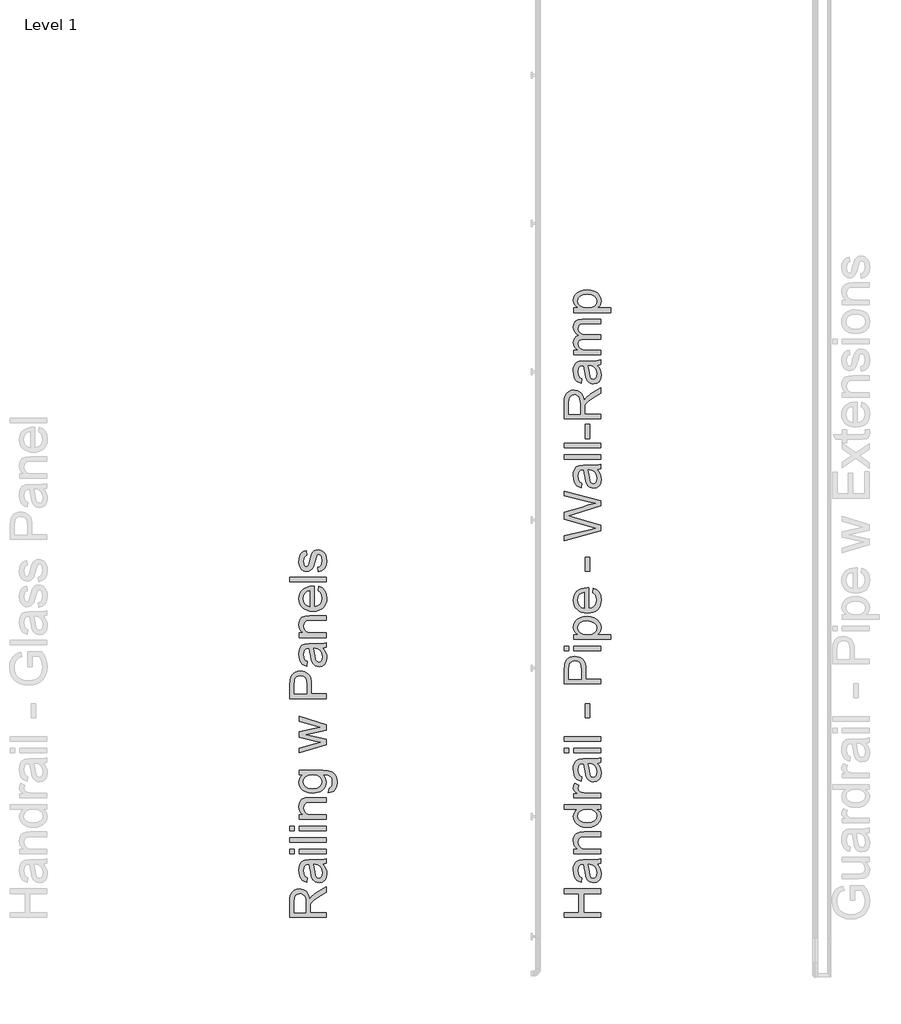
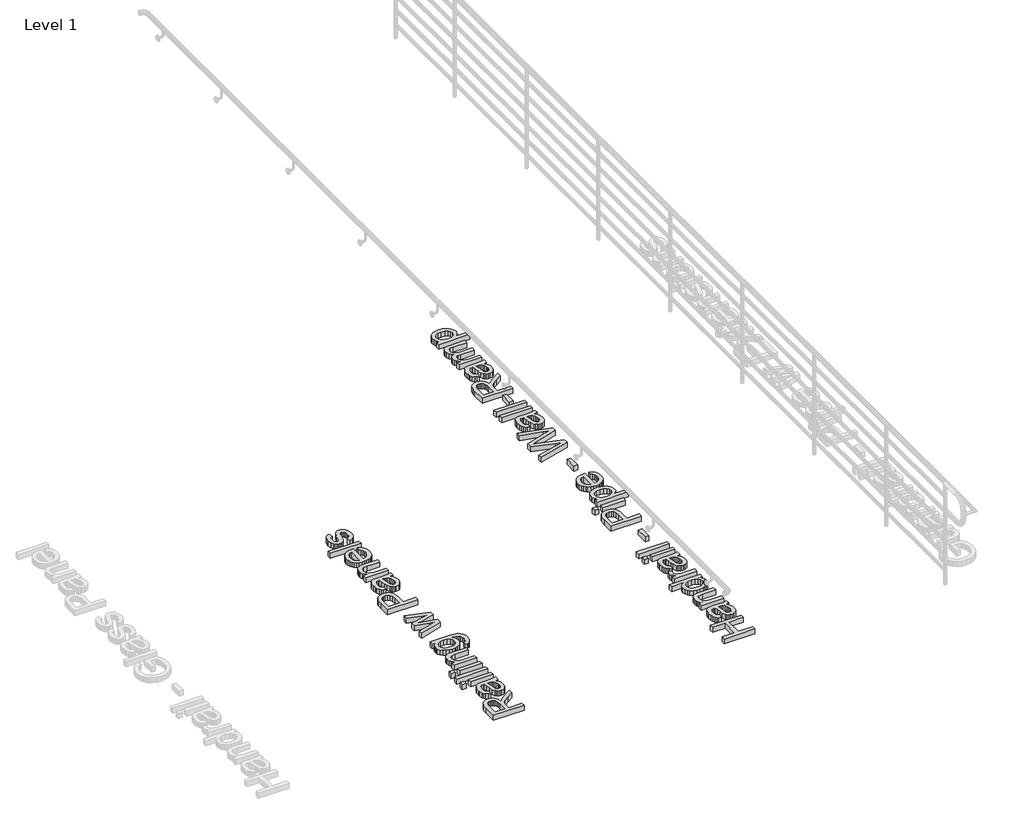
# One storey, part 9 of 14: 2 proxies.
"""IFC4 building model written with IfcOpenShell, lengths in millimetres."""

import ifcopenshell
import ifcopenshell.guid

model = None  # the IFC model being written
_history = None  # IfcOwnerHistory: only IFC2X3 demands one
_inside = {}  # id of a spatial element -> (the spatial element, [elements in it])
_under = {}  # id of a project, library or spatial element -> (it, [spatial elements below it])
_declared = {}  # id of a project -> (the project, [libraries it declares])
_typed = {}  # id of a type object -> (the type object, [elements of that type])
_made_of = {}  # id of a material, layer set ... -> (it, [elements and type objects made of it])


def new_model(schema):
    """Start an empty IFC model of exactly this schema.

    Asked for "IFC4X3", IfcOpenShell would pick the latest addendum, in which some entities
    have other attributes; the version numbers below select the first issue.
    IFC2X3 requires an IfcOwnerHistory on every rooted entity: one is made here for all.
    """
    global model, _history
    if schema == "IFC4X3":
        model = ifcopenshell.file(schema_version=(4, 3, 0, 0))
    else:
        model = ifcopenshell.file(schema=schema)
    _inside.clear()
    _under.clear()
    _declared.clear()
    _typed.clear()
    _made_of.clear()
    _history = None
    if model.schema == "IFC2X3":
        org = make("IfcOrganization", Name="unknown")
        user = make(
            "IfcPersonAndOrganization",
            ThePerson=make("IfcPerson", FamilyName="unknown"),
            TheOrganization=org,
        )
        app = make(
            "IfcApplication",
            ApplicationDeveloper=org,
            Version="unknown",
            ApplicationFullName="unknown",
            ApplicationIdentifier="unknown",
        )
        _history = make(
            "IfcOwnerHistory",
            OwningUser=user,
            OwningApplication=app,
            ChangeAction="ADDED",
            CreationDate=0,
        )
    return model


def make(cls, **values):
    """One entity of the class cls with the attributes given. An attribute that is None is left unset."""
    return model.create_entity(
        cls, **{name: value for name, value in values.items() if value is not None}
    )


def rooted(cls, **values):
    """An entity with a GlobalId (a new one), such as an element, a storey or a relation."""
    return make(cls, GlobalId=ifcopenshell.guid.new(), OwnerHistory=_history, **values)


def si_unit(unit_type, name, prefix=None):
    """IfcSIUnit, for example si_unit("LENGTHUNIT", "METRE", prefix="MILLI")."""
    return make("IfcSIUnit", UnitType=unit_type, Prefix=prefix, Name=name)


def assignment(units):
    """IfcUnitAssignment: the units of a project."""
    return None if units is None else make("IfcUnitAssignment", Units=units)


def point(xyz):
    """IfcCartesianPoint."""
    return None if xyz is None else make("IfcCartesianPoint", Coordinates=xyz)


def direction(xyz):
    """IfcDirection."""
    return None if xyz is None else make("IfcDirection", DirectionRatios=xyz)


def frame(location, z_axis=None, x_axis=None):
    """IfcAxis2Placement3D, a coordinate frame: its origin and axes. An axis left out is left unset."""
    return make(
        "IfcAxis2Placement3D",
        Location=point(location),
        Axis=direction(z_axis),
        RefDirection=direction(x_axis),
    )


def origin():
    """The frame at (0, 0, 0) with its axes left unset."""
    return frame((0.0, 0.0, 0.0))


def origin_with_axes():
    """The frame at (0, 0, 0) with the z axis (0, 0, 1) and the x axis (1, 0, 0) written out."""
    return frame((0.0, 0.0, 0.0), z_axis=(0.0, 0.0, 1.0), x_axis=(1.0, 0.0, 0.0))


def place(relative_to, where):
    """IfcLocalPlacement: puts the frame where relative to a parent placement (None: the world)."""
    return make(
        "IfcLocalPlacement", PlacementRelTo=relative_to, RelativePlacement=where
    )


def context(
    kind, dimensions, precision=None, world=None, true_north=None, identifier=None
):
    """IfcGeometricRepresentationContext, for example the 3D "Model" context."""
    return make(
        "IfcGeometricRepresentationContext",
        ContextIdentifier=identifier,
        ContextType=kind,
        CoordinateSpaceDimension=dimensions,
        Precision=precision,
        WorldCoordinateSystem=world,
        TrueNorth=true_north,
    )


def project(units=None, contexts=None):
    """IfcProject with its units and contexts."""
    return rooted(
        "IfcProject",
        Name="project",
        RepresentationContexts=contexts,
        UnitsInContext=assignment(units),
    )


def spatial(cls, under=None, at=None, **own):
    """A site, building, storey or space (cls), placed at a placement, below another one or the project."""
    s = rooted(cls, ObjectPlacement=at, **own)
    if under is not None:
        _under.setdefault(under.id(), (under, []))[1].append(s)
    return s


def polyline(points):
    """IfcPolyline through the points."""
    return make("IfcPolyline", Points=[point(p) for p in points])


def outline(outer, holes=None, kind="AREA"):
    """IfcArbitraryClosedProfileDef: a profile drawn as a closed curve; with holes, ...WithVoids."""
    if holes is None:
        return make("IfcArbitraryClosedProfileDef", ProfileType=kind, OuterCurve=outer)
    return make(
        "IfcArbitraryProfileDefWithVoids",
        ProfileType=kind,
        OuterCurve=outer,
        InnerCurves=holes,
    )


def extrude(swept, where, along, depth):
    """IfcExtrudedAreaSolid: the profile swept, set in the frame where, extruded along a direction by depth."""
    return make(
        "IfcExtrudedAreaSolid",
        SweptArea=swept,
        Position=where,
        ExtrudedDirection=direction(along),
        Depth=depth,
    )


def shape(context_of_items, identifier, shape_type, items):
    """IfcShapeRepresentation: the items that make up one representation, for example the "Body"."""
    return make(
        "IfcShapeRepresentation",
        ContextOfItems=context_of_items,
        RepresentationIdentifier=identifier,
        RepresentationType=shape_type,
        Items=items,
    )


def made_of(thing, what):
    """Note that an element or type object is made of a material, layer set ...; save() writes the relation."""
    if what is not None:
        _made_of.setdefault(what.id(), (what, []))[1].append(thing)
    return thing


def element(
    cls,
    number,
    at=None,
    inside=None,
    cuts=None,
    type_object=None,
    material=None,
    context=None,
    identifier="Body",
    shape_type=None,
    held_by="IfcProductDefinitionShape",
    body=None,
    shapes=None,
    **own,
):
    """One element of the class cls, such as IfcWall. Its Tag is "e" and its number.

    at: its placement. inside: the storey or other place that contains it. cuts: it is an
    opening in that element (IfcRelVoidsElement). A single representation is given by context,
    identifier, shape_type and body (its items); several are given by shapes. held_by: the class
    of the entity that holds the representations. save() writes the other relations.
    """
    e = rooted(cls, Tag="e%d" % number, ObjectPlacement=at, **own)
    if body is not None:
        shapes = [shape(context, identifier, shape_type, body)]
    if shapes is not None:
        e.Representation = make(held_by, Representations=shapes)
    if inside is not None:
        _inside.setdefault(inside.id(), (inside, []))[1].append(e)
    if cuts is not None:
        rooted(
            "IfcRelVoidsElement", RelatingBuildingElement=cuts, RelatedOpeningElement=e
        )
    if type_object is not None:
        _typed.setdefault(type_object.id(), (type_object, []))[1].append(e)
    return made_of(e, material)


def aggregate(whole, parts):
    """IfcRelAggregates: a whole, such as a stair, and the parts it consists of."""
    return rooted("IfcRelAggregates", RelatingObject=whole, RelatedObjects=parts)


def save(model, path):
    """Write the relations noted so far, then the file.

    IfcRelAggregates (storeys below a building ...), IfcRelContainedInSpatialStructure (elements
    in a storey), IfcRelDefinesByType, IfcRelAssociatesMaterial and IfcRelDeclares: one each for
    every whole, place, type object, material and project.
    """
    for whole, parts in _under.values():
        aggregate(whole, parts)
    for where, things in _inside.values():
        rooted(
            "IfcRelContainedInSpatialStructure",
            RelatedElements=things,
            RelatingStructure=where,
        )
    for kind, things in _typed.values():
        rooted("IfcRelDefinesByType", RelatedObjects=things, RelatingType=kind)
    for what, things in _made_of.values():
        rooted("IfcRelAssociatesMaterial", RelatedObjects=things, RelatingMaterial=what)
    for by, libraries in _declared.values():
        rooted("IfcRelDeclares", RelatingContext=by, RelatedDefinitions=libraries)
    model.write(path)


model = new_model("IFC4")

# Units and contexts
model_context = context("Model", 3, world=origin())
ifc_project = project(units=[si_unit("LENGTHUNIT", "METRE", prefix="MILLI")], contexts=[model_context])

# Site, building, storey
site = spatial("IfcSite", under=ifc_project)
building = spatial("IfcBuilding", under=site)
storey = spatial("IfcBuildingStorey", under=building, Name="Level 1", Elevation=0.0)

# Proxies
placement = place(None, origin())
element("IfcBuildingElementProxy", 1, Name="12\" Arial", ObjectType="12\" Arial", at=placement, inside=storey, context=model_context, shape_type="SweptSolid", body=[
    extrude(outline(polyline([(-7805.7541585, -14491.3688513), (-8105.8649278, -14491.3688513), (-8105.8649278, -14362.0486589), (-8103.8408653, -14327.2915676), (-8097.7686778, -14302.0045243), (-8086.5584855, -14283.5223609), (-8069.1204085, -14269.1799089), (-8047.4968268, -14259.9754618), (-8023.7301201, -14256.9073128), (-7994.1659855, -14261.9903657), (-7969.6574278, -14277.2395243), (-7959.6699157, -14288.7908765), (-7951.6881489, -14303.1127214), (-7941.7418508, -14340.0678897), (-7925.6958893, -14318.7465436), (-7887.0830047, -14288.3398128), (-7805.7541585, -14238.2969282), (-7805.7541585, -14281.8921205), (-7867.9597355, -14320.9446205), (-7909.1370432, -14349.1532743), (-7928.5900239, -14368.9726013), (-7935.7337739, -14386.8136589), (-7937.0526201, -14408.5746205), (-7937.0526201, -14453.8550051), (-7805.7541585, -14453.8550051), (-7805.7541585, -14491.3688513)]), holes=[polyline([(-7974.5664662, -14453.8550051), (-7974.5664662, -14369.8884666), (-7975.894471, -14345.7737311), (-7979.8784855, -14327.0626013), (-7986.7841105, -14312.9765916), (-7996.876947, -14302.7372166), (-8009.0854326, -14296.5001734), (-8022.3380047, -14294.4211589), (-8040.6369951, -14298.3868561), (-8055.3824278, -14310.2839474), (-8065.1089182, -14330.7535388), (-8068.3510816, -14360.4367359), (-8068.3510816, -14453.8550051), (-7974.5664662, -14453.8550051)])]), origin_with_axes(), (0.0, 0.0, 1.0), 50.8),
    extrude(outline(polyline([(-7833.8895432, -14055.2703897), (-7818.521322, -14073.1938753), (-7808.4651201, -14091.6485628), (-7802.9149758, -14111.0557503), (-7801.0649278, -14131.8367359), (-7805.5160335, -14163.186808), (-7818.8693508, -14186.3124089), (-7839.1466105, -14200.572433), (-7864.3695432, -14205.3257743), (-7879.9209374, -14203.5306782), (-7894.0435816, -14198.1453897), (-7906.1330047, -14189.8384907), (-7915.5847355, -14179.2785628), (-7927.8939662, -14153.0115436), (-7933.535697, -14120.5532743), (-7939.4705047, -14082.196832), (-7946.4310816, -14055.4901974), (-7954.7837739, -14055.2703897), (-7971.5257932, -14057.8531301), (-7982.4795432, -14065.6013513), (-7990.6124278, -14082.9295243), (-7993.3233893, -14107.0717359), (-7991.5191345, -14129.4188513), (-7986.1063701, -14145.0251974), (-7976.0959614, -14155.6675532), (-7960.4987739, -14163.1226974), (-7965.1880047, -14200.6365436), (-7985.7033893, -14194.1247407), (-8001.8226201, -14184.4074089), (-8014.1501682, -14170.5778416), (-8023.2905047, -14151.729332), (-8028.9505528, -14128.6770003), (-8030.8372355, -14102.2359666), (-8029.1703605, -14076.8756541), (-8024.1697355, -14056.7724089), (-8016.6504807, -14041.6148368), (-8007.4277162, -14031.0915436), (-7996.0251922, -14024.1126493), (-7981.9666585, -14019.5882743), (-7949.1420432, -14017.7565436), (-7902.4695432, -14017.7565436), (-7837.2965624, -14015.8515436), (-7805.7541585, -14008.378082), (-7805.7541585, -14045.8919282), (-7833.8895432, -14055.2703897)]), holes=[polyline([(-7908.9172355, -14055.2703897), (-7897.4139662, -14115.7907743), (-7891.3326201, -14148.0658705), (-7881.4412739, -14162.683082), (-7867.0072355, -14167.8119282), (-7855.8519951, -14165.0185388), (-7846.7116585, -14156.6383705), (-7840.6119951, -14142.8545964), (-7838.5787739, -14123.8503897), (-7840.8226441, -14103.7013513), (-7847.5542547, -14085.8969282), (-7857.4730768, -14071.4628897), (-7869.2785816, -14061.4250051), (-7881.4412739, -14056.9738993), (-7898.293197, -14055.4901974), (-7908.9172355, -14055.2703897)])]), origin_with_axes(), (0.0, 0.0, 1.0), 50.8),
    extrude(outline(polyline([(-8068.3510816, -13966.1750051), (-8105.8649278, -13966.1750051), (-8105.8649278, -13928.6611589), (-8068.3510816, -13928.6611589), (-8068.3510816, -13966.1750051)])), origin_with_axes(), (0.0, 0.0, 1.0), 50.8),
    extrude(outline(polyline([(-7805.7541585, -13966.1750051), (-8026.1480047, -13966.1750051), (-8026.1480047, -13928.6611589), (-7805.7541585, -13928.6611589), (-7805.7541585, -13966.1750051)])), origin_with_axes(), (0.0, 0.0, 1.0), 50.8),
    extrude(outline(polyline([(-7805.7541585, -13872.3903897), (-8105.8649278, -13872.3903897), (-8105.8649278, -13834.8765436), (-7805.7541585, -13834.8765436), (-7805.7541585, -13872.3903897)])), origin_with_axes(), (0.0, 0.0, 1.0), 50.8),
    extrude(outline(polyline([(-8068.3510816, -13778.6057743), (-8105.8649278, -13778.6057743), (-8105.8649278, -13741.0919282), (-8068.3510816, -13741.0919282), (-8068.3510816, -13778.6057743)])), origin_with_axes(), (0.0, 0.0, 1.0), 50.8),
    extrude(outline(polyline([(-7805.7541585, -13778.6057743), (-8026.1480047, -13778.6057743), (-8026.1480047, -13741.0919282), (-7805.7541585, -13741.0919282), (-7805.7541585, -13778.6057743)])), origin_with_axes(), (0.0, 0.0, 1.0), 50.8),
    extrude(outline(polyline([(-7805.7541585, -13684.8211589), (-8026.1480047, -13684.8211589), (-8026.1480047, -13647.3073128), (-7995.3749278, -13647.3073128), (-8010.8896874, -13634.2745484), (-8021.9716585, -13618.6224089), (-8028.6208412, -13600.3508945), (-8030.8372355, -13579.4600051), (-8029.051298, -13560.968683), (-8023.6934855, -13544.034332), (-8015.4323797, -13529.9116878), (-8004.9365624, -13519.8554859), (-7977.350697, -13508.6086589), (-7941.0824278, -13506.6303897), (-7805.7541585, -13506.6303897), (-7805.7541585, -13544.1442359), (-7936.0268508, -13544.1442359), (-7969.2178124, -13548.4671205), (-7979.0999999, -13554.4477214), (-7986.7657932, -13563.7437551), (-7991.6839903, -13575.6591638), (-7993.3233893, -13589.4978897), (-7989.6416105, -13611.4695003), (-7978.5962739, -13630.1989474), (-7969.5795792, -13637.6838573), (-7957.2566105, -13643.0302214), (-7922.6918508, -13647.3073128), (-7805.7541585, -13647.3073128), (-7805.7541585, -13684.8211589)])), origin_with_axes(), (0.0, 0.0, 1.0), 50.8),
    extrude(outline(polyline([(-7786.9972355, -13464.4273128), (-7782.3080047, -13426.9134666), (-7770.5849278, -13422.7737551), (-7762.5253124, -13414.7507743), (-7756.2607932, -13398.9795724), (-7754.1726201, -13378.3359666), (-7756.5355528, -13356.3185628), (-7763.6243508, -13339.9428897), (-7774.9810816, -13328.5861589), (-7790.1478124, -13321.625582), (-7833.8895432, -13319.0611589), (-7821.5803124, -13331.5444041), (-7812.7880047, -13345.4747166), (-7807.5126201, -13360.8520964), (-7805.7541585, -13377.6765436), (-7807.8011177, -13398.2445904), (-7813.9419951, -13416.3535388), (-7824.1767907, -13432.0033885), (-7838.5055047, -13445.1941397), (-7855.696298, -13455.6601914), (-7874.5173316, -13463.1359426), (-7894.9686057, -13467.6213933), (-7917.0501201, -13469.1165436), (-7947.3377883, -13466.433058), (-7975.1892547, -13458.3826013), (-7998.7911057, -13445.2490916), (-8016.3299278, -13427.3164474), (-8027.2104085, -13405.1982984), (-8030.8372355, -13379.5082743), (-8028.785697, -13361.9648729), (-8022.6310816, -13346.0425532), (-8012.3733893, -13331.7413152), (-7998.0126201, -13319.0611589), (-8026.1480047, -13319.0611589), (-8026.1480047, -13281.5473128), (-7835.8678124, -13281.5473128), (-7791.9337499, -13284.1117359), (-7763.0015624, -13291.8050051), (-7743.8141826, -13305.0575772), (-7729.1145432, -13324.2999089), (-7719.7727162, -13349.1107022), (-7716.6587739, -13379.0686589), (-7721.0457691, -13413.9722888), (-7734.2067547, -13441.4574089), (-7744.0866525, -13451.8089775), (-7756.1783653, -13459.0878176), (-7770.4818929, -13463.2939294), (-7786.9972355, -13464.4273128)]), holes=[polyline([(-7919.6145432, -13431.6026974), (-7885.2054807, -13427.6003657), (-7861.5486778, -13415.5933705), (-7847.838173, -13397.5416638), (-7843.2680047, -13375.4051974), (-7847.810697, -13353.4335868), (-7861.4387739, -13335.2902936), (-7884.7933412, -13323.1184426), (-7918.5155047, -13319.0611589), (-7951.0378845, -13323.2375051), (-7974.4565624, -13335.7665436), (-7988.6066826, -13354.1754378), (-7993.3233893, -13375.9913513), (-7988.6799518, -13397.4134426), (-7974.7496393, -13415.3735628), (-7951.6789903, -13427.5454138), (-7919.6145432, -13431.6026974)])]), origin_with_axes(), (0.0, 0.0, 1.0), 50.8),
    extrude(outline(polyline([(-7805.7541585, -13071.4844282), (-8026.1480047, -13138.5257743), (-8026.1480047, -13099.5465436), (-7897.5605047, -13061.5198128), (-7851.620697, -13050.163082), (-7895.8753124, -13040.8578897), (-8026.1480047, -13010.5976974), (-8026.1480047, -12965.9034666), (-7896.2416585, -12935.7898128), (-7856.1633893, -12927.5103897), (-7898.4397355, -12915.6407743), (-8026.1480047, -12877.5407743), (-8026.1480047, -12838.4150051), (-7805.7541585, -12905.9692359), (-7805.7541585, -12951.3228897), (-7935.0010816, -12980.1176974), (-7975.2991585, -12988.4703897), (-7805.7541585, -13025.6178897), (-7805.7541585, -13071.4844282)])), origin_with_axes(), (0.0, 0.0, 1.0), 50.8),
    extrude(outline(polyline([(-7805.7541585, -12690.7042359), (-8105.8649278, -12690.7042359), (-8105.8649278, -12579.4815436), (-8103.0074278, -12534.6407743), (-8097.6679326, -12514.647433), (-8088.9763701, -12498.189332), (-8076.5389182, -12484.9367599), (-8059.9617547, -12474.5600051), (-8040.4080287, -12467.8558705), (-8019.0408893, -12465.6211589), (-8000.6182571, -12467.1300472), (-7983.6701682, -12471.6567118), (-7968.1966225, -12479.2011529), (-7954.1976201, -12489.7633705), (-7942.5936057, -12504.2638092), (-7934.3050239, -12523.6229138), (-7929.3318749, -12547.8406842), (-7927.6741585, -12576.9171205), (-7927.6741585, -12653.1903897), (-7805.7541585, -12653.1903897), (-7805.7541585, -12690.7042359)]), holes=[polyline([(-7965.1880047, -12653.1903897), (-7965.1880047, -12574.7190436), (-7968.6316585, -12541.4548128), (-7978.9626201, -12519.4740436), (-7995.5397835, -12507.2197647), (-8017.7220432, -12503.1350051), (-8034.5739662, -12505.5437311), (-8048.788197, -12512.7699089), (-8059.4855047, -12523.9159907), (-8065.7866585, -12538.0844282), (-8068.3510816, -12575.5982743), (-8068.3510816, -12653.1903897), (-7965.1880047, -12653.1903897)])]), origin_with_axes(), (0.0, 0.0, 1.0), 50.8),
    extrude(outline(polyline([(-7833.8895432, -12278.0519282), (-7818.521322, -12295.9754138), (-7808.4651201, -12314.4301013), (-7802.9149758, -12333.8372888), (-7801.0649278, -12354.6182743), (-7805.5160335, -12385.9683464), (-7818.8693508, -12409.0939474), (-7839.1466105, -12423.3539714), (-7864.3695432, -12428.1073128), (-7879.9209374, -12426.3122166), (-7894.0435816, -12420.9269282), (-7906.1330047, -12412.6200291), (-7915.5847355, -12402.0601013), (-7927.8939662, -12375.793082), (-7933.535697, -12343.3348128), (-7939.4705047, -12304.9783705), (-7946.4310816, -12278.2717359), (-7954.7837739, -12278.0519282), (-7971.5257932, -12280.6346686), (-7982.4795432, -12288.3828897), (-7990.6124278, -12305.7110628), (-7993.3233893, -12329.8532743), (-7991.5191345, -12352.2003897), (-7986.1063701, -12367.8067359), (-7976.0959614, -12378.4490916), (-7960.4987739, -12385.9042359), (-7965.1880047, -12423.418082), (-7985.7033893, -12416.9062791), (-8001.8226201, -12407.1889474), (-8014.1501682, -12393.3593801), (-8023.2905047, -12374.5108705), (-8028.9505528, -12351.4585388), (-8030.8372355, -12325.0175051), (-8029.1703605, -12299.6571926), (-8024.1697355, -12279.5539474), (-8016.6504807, -12264.3963753), (-8007.4277162, -12253.873082), (-7996.0251922, -12246.8941878), (-7981.9666585, -12242.3698128), (-7949.1420432, -12240.538082), (-7902.4695432, -12240.538082), (-7837.2965624, -12238.633082), (-7805.7541585, -12231.1596205), (-7805.7541585, -12268.6734666), (-7833.8895432, -12278.0519282)]), holes=[polyline([(-7908.9172355, -12278.0519282), (-7897.4139662, -12338.5723128), (-7891.3326201, -12370.8474089), (-7881.4412739, -12385.4646205), (-7867.0072355, -12390.5934666), (-7855.8519951, -12387.8000772), (-7846.7116585, -12379.4199089), (-7840.6119951, -12365.6361349), (-7838.5787739, -12346.6319282), (-7840.8226441, -12326.4828897), (-7847.5542547, -12308.6784666), (-7857.4730768, -12294.2444282), (-7869.2785816, -12284.2065436), (-7881.4412739, -12279.7554378), (-7898.293197, -12278.2717359), (-7908.9172355, -12278.0519282)])]), origin_with_axes(), (0.0, 0.0, 1.0), 50.8),
    extrude(outline(polyline([(-7805.7541585, -12188.9565436), (-8026.1480047, -12188.9565436), (-8026.1480047, -12151.4426974), (-7995.3749278, -12151.4426974), (-8010.8896874, -12138.409933), (-8021.9716585, -12122.7577936), (-8028.6208412, -12104.4862791), (-8030.8372355, -12083.5953897), (-8029.051298, -12065.1040676), (-8023.6934855, -12048.1697166), (-8015.4323797, -12034.0470724), (-8004.9365624, -12023.9908705), (-7977.350697, -12012.7440436), (-7941.0824278, -12010.7657743), (-7805.7541585, -12010.7657743), (-7805.7541585, -12048.2796205), (-7936.0268508, -12048.2796205), (-7969.2178124, -12052.6025051), (-7979.0999999, -12058.5831061), (-7986.7657932, -12067.8791397), (-7991.6839903, -12079.7945484), (-7993.3233893, -12093.6332743), (-7989.6416105, -12115.6048849), (-7978.5962739, -12134.334332), (-7969.5795792, -12141.8192419), (-7957.2566105, -12147.1656061), (-7922.6918508, -12151.4426974), (-7805.7541585, -12151.4426974), (-7805.7541585, -12188.9565436)])), origin_with_axes(), (0.0, 0.0, 1.0), 50.8),
    extrude(outline(polyline([(-7871.4033893, -11804.8792359), (-7866.7141585, -11768.098082), (-7839.000072, -11781.3506541), (-7818.283197, -11802.4979859), (-7805.3694951, -11831.0638272), (-7801.0649278, -11866.5719282), (-7802.9218448, -11889.8486469), (-7808.492596, -11910.5884186), (-7817.7771814, -11928.7912431), (-7830.7756008, -11944.4571205), (-7847.1260876, -11957.0548489), (-7866.4668749, -11966.0532263), (-7888.7979626, -11971.4522527), (-7914.1193508, -11973.2519282), (-7940.2993629, -11971.4339354), (-7963.3745912, -11965.979957), (-7983.3450359, -11956.8899931), (-8000.210697, -11944.1640436), (-8013.6098076, -11928.5393801), (-8023.1806008, -11910.7532743), (-8028.9230768, -11890.8057263), (-8030.8372355, -11868.6967359), (-8028.9276561, -11847.2998308), (-8023.1989182, -11827.9498849), (-8013.6510215, -11810.6468981), (-8000.2839662, -11795.3908705), (-7983.4549398, -11782.9373909), (-7963.5211297, -11774.0420484), (-7940.4825359, -11768.7048428), (-7914.3391585, -11766.9257743), (-7904.2280047, -11767.145582), (-7904.2280047, -11935.738082), (-7876.147572, -11929.2445964), (-7855.5039662, -11914.1602936), (-7842.810072, -11892.3901734), (-7838.5787739, -11865.8392359), (-7840.5387258, -11845.8733705), (-7846.4185816, -11829.058082), (-7856.5846874, -11815.3933705), (-7871.4033893, -11804.8792359)]), holes=[polyline([(-7941.7418508, -11935.738082), (-7941.7418508, -11804.4396205), (-7961.5611778, -11809.5135147), (-7975.7387739, -11819.4598128), (-7988.9272355, -11841.3306782), (-7993.3233893, -11868.8432743), (-7989.8156249, -11894.1303176), (-7979.2923316, -11915.0395243), (-7962.8891826, -11929.574308), (-7941.7418508, -11935.738082)])]), origin_with_axes(), (0.0, 0.0, 1.0), 50.8),
    extrude(outline(polyline([(-7805.7541585, -11729.4119282), (-8105.8649278, -11729.4119282), (-8105.8649278, -11691.898082), (-7805.7541585, -11691.898082), (-7805.7541585, -11729.4119282)])), origin_with_axes(), (0.0, 0.0, 1.0), 50.8),
    extrude(outline(polyline([(-7871.4033893, -11649.6950051), (-7876.0926201, -11612.1811589), (-7860.0466585, -11606.2646686), (-7848.2503124, -11594.8163513), (-7840.9966585, -11577.7629378), (-7838.5787739, -11555.0311589), (-7840.7951682, -11532.5741397), (-7847.4443508, -11516.7846205), (-7857.0792547, -11507.4427936), (-7868.2528124, -11504.3288513), (-7877.814447, -11507.4611109), (-7885.1047355, -11516.8578897), (-7895.8020432, -11555.4707743), (-7914.1559855, -11611.9613513), (-7923.3787499, -11626.2580099), (-7935.5872355, -11636.6164474), (-7950.0029566, -11642.9084426), (-7965.8474278, -11645.0057743), (-7980.3822114, -11643.320582), (-7993.7996393, -11638.2650051), (-8005.5685095, -11630.2969763), (-8015.1576201, -11619.8744282), (-8026.2579085, -11596.0252936), (-8030.8372355, -11563.7501974), (-8028.996346, -11539.3332263), (-8023.4736778, -11518.1034666), (-8014.8095912, -11501.0317359), (-8003.544447, -11489.0888513), (-7988.8448076, -11481.1757743), (-7969.8772355, -11476.1934666), (-7965.1880047, -11513.7073128), (-7976.9935095, -11518.4423368), (-7985.8865624, -11527.8116397), (-7991.4641826, -11541.906808), (-7993.3233893, -11560.8194282), (-7991.5466105, -11582.360582), (-7986.2162739, -11596.7213513), (-7978.5230047, -11604.7992839), (-7969.6574278, -11607.4919282), (-7958.7403124, -11603.0225051), (-7950.4608893, -11589.028082), (-7942.4745432, -11556.7163513), (-7924.8166585, -11501.6545243), (-7916.3723797, -11487.110582), (-7904.8141585, -11476.0835628), (-7890.1053605, -11469.1321445), (-7872.2093508, -11466.8150051), (-7853.7088701, -11469.5351253), (-7836.3074278, -11477.6954859), (-7821.3696633, -11490.9846926), (-7810.2602162, -11509.0913513), (-7803.3637499, -11530.9622166), (-7801.0649278, -11555.5440436), (-7805.4977162, -11593.3692839), (-7818.7960816, -11620.9734666), (-7840.8134855, -11639.4006782), (-7871.4033893, -11649.6950051)])), origin_with_axes(), (0.0, 0.0, 1.0), 50.8),
])
element("IfcBuildingElementProxy", 2, Name="12\" Arial", ObjectType="12\" Arial", at=placement, inside=storey, context=model_context, shape_type="SweptSolid", body=[
    extrude(outline(polyline([(-5548.5753423, -14491.3688513), (-5848.6861115, -14491.3688513), (-5848.6861115, -14453.8550051), (-5726.7661115, -14453.8550051), (-5726.7661115, -14294.4211589), (-5848.6861115, -14294.4211589), (-5848.6861115, -14256.9073128), (-5548.5753423, -14256.9073128), (-5548.5753423, -14294.4211589), (-5689.2522653, -14294.4211589), (-5689.2522653, -14453.8550051), (-5548.5753423, -14453.8550051), (-5548.5753423, -14491.3688513)])), origin_with_axes(), (0.0, 0.0, 1.0), 50.8),
    extrude(outline(polyline([(-5576.7107269, -14055.2703897), (-5561.3425057, -14073.1938753), (-5551.2863038, -14091.6485628), (-5545.7361596, -14111.0557503), (-5543.8861115, -14131.8367359), (-5548.3372173, -14163.186808), (-5561.6905346, -14186.3124089), (-5581.9677942, -14200.572433), (-5607.1907269, -14205.3257743), (-5622.7421211, -14203.5306782), (-5636.8647653, -14198.1453897), (-5648.9541884, -14189.8384907), (-5658.4059192, -14179.2785628), (-5670.71515, -14153.0115436), (-5676.3568807, -14120.5532743), (-5682.2916884, -14082.196832), (-5689.2522653, -14055.4901974), (-5697.6049576, -14055.2703897), (-5714.3469769, -14057.8531301), (-5725.3007269, -14065.6013513), (-5733.4336115, -14082.9295243), (-5736.144573, -14107.0717359), (-5734.3403182, -14129.4188513), (-5728.9275538, -14145.0251974), (-5718.9171451, -14155.6675532), (-5703.3199576, -14163.1226974), (-5708.0091884, -14200.6365436), (-5728.524573, -14194.1247407), (-5744.6438038, -14184.4074089), (-5756.9713519, -14170.5778416), (-5766.1116884, -14151.729332), (-5771.7717365, -14128.6770003), (-5773.6584192, -14102.2359666), (-5771.9915442, -14076.8756541), (-5766.9909192, -14056.7724089), (-5759.4716644, -14041.6148368), (-5750.2489, -14031.0915436), (-5738.8463759, -14024.1126493), (-5724.7878423, -14019.5882743), (-5691.9632269, -14017.7565436), (-5645.2907269, -14017.7565436), (-5580.1177461, -14015.8515436), (-5548.5753423, -14008.378082), (-5548.5753423, -14045.8919282), (-5576.7107269, -14055.2703897)]), holes=[polyline([(-5651.7384192, -14055.2703897), (-5640.23515, -14115.7907743), (-5634.1538038, -14148.0658705), (-5624.2624576, -14162.683082), (-5609.8284192, -14167.8119282), (-5598.6731788, -14165.0185388), (-5589.5328423, -14156.6383705), (-5583.4331788, -14142.8545964), (-5581.3999576, -14123.8503897), (-5583.6438278, -14103.7013513), (-5590.3754384, -14085.8969282), (-5600.2942605, -14071.4628897), (-5612.0997653, -14061.4250051), (-5624.2624576, -14056.9738993), (-5641.1143807, -14055.4901974), (-5651.7384192, -14055.2703897)])]), origin_with_axes(), (0.0, 0.0, 1.0), 50.8),
    extrude(outline(polyline([(-5548.5753423, -13966.1750051), (-5768.9691884, -13966.1750051), (-5768.9691884, -13928.6611589), (-5738.1961115, -13928.6611589), (-5753.7108711, -13915.6283945), (-5764.7928423, -13899.9762551), (-5771.442025, -13881.7047407), (-5773.6584192, -13860.8138513), (-5771.8724817, -13842.3225291), (-5766.5146692, -13825.3881782), (-5758.2535634, -13811.2655339), (-5747.7577461, -13801.209332), (-5720.1718807, -13789.9625051), (-5683.9036115, -13787.9842359), (-5548.5753423, -13787.9842359), (-5548.5753423, -13825.498082), (-5678.8480346, -13825.498082), (-5712.0389961, -13829.8209666), (-5721.9211836, -13835.8015676), (-5729.5869769, -13845.0976013), (-5734.505174, -13857.0130099), (-5736.144573, -13870.8517359), (-5732.4627942, -13892.8233464), (-5721.4174576, -13911.5527936), (-5712.4007629, -13919.0377034), (-5700.0777942, -13924.3840676), (-5665.5130346, -13928.6611589), (-5548.5753423, -13928.6611589), (-5548.5753423, -13966.1750051)])), origin_with_axes(), (0.0, 0.0, 1.0), 50.8),
    extrude(outline(polyline([(-5548.5753423, -13600.4150051), (-5583.9643807, -13600.4150051), (-5566.4301379, -13611.6389354), (-5553.9056788, -13625.234957), (-5546.3910033, -13641.20307), (-5543.8861115, -13659.5432743), (-5547.5129384, -13683.7953897), (-5558.3934192, -13705.9959666), (-5575.7673855, -13724.7895243), (-5598.8746692, -13738.820582), (-5626.7810875, -13747.5579378), (-5658.5524576, -13750.4703897), (-5689.9300057, -13747.7869041), (-5718.2668807, -13739.7364474), (-5741.9511596, -13726.3281782), (-5759.3709192, -13707.5712551), (-5770.0865442, -13684.8852695), (-5773.6584192, -13659.6898128), (-5771.1031548, -13641.3358705), (-5763.4373615, -13625.1067359), (-5751.6868086, -13611.3504378), (-5736.8772653, -13600.4150051), (-5848.6861115, -13600.4150051), (-5848.6861115, -13562.9011589), (-5548.5753423, -13562.9011589), (-5548.5753423, -13600.4150051)]), holes=[polyline([(-5658.6989961, -13712.9565436), (-5624.7661836, -13708.7252455), (-5600.6331307, -13696.0313513), (-5586.2082509, -13677.5858224), (-5581.3999576, -13656.0996205), (-5585.9884432, -13634.6225772), (-5599.7539, -13616.6441397), (-5622.9527701, -13604.4722888), (-5655.8414961, -13600.4150051), (-5691.7983711, -13604.545558), (-5716.7282269, -13616.9372166), (-5731.2904865, -13635.3735868), (-5736.144573, -13657.6382743), (-5731.4828182, -13679.3442839), (-5717.4975538, -13697.1303897), (-5693.4744048, -13709.0000051), (-5658.6989961, -13712.9565436)])]), origin_with_axes(), (0.0, 0.0, 1.0), 50.8),
    extrude(outline(polyline([(-5548.5753423, -13506.6303897), (-5768.9691884, -13506.6303897), (-5768.9691884, -13473.8057743), (-5736.3643807, -13473.8057743), (-5755.2678423, -13461.6797166), (-5766.4047653, -13450.5061589), (-5771.8450057, -13439.2959666), (-5773.6584192, -13427.0600051), (-5770.7642846, -13408.3763513), (-5762.0818807, -13389.3996205), (-5728.4513038, -13401.9286589), (-5734.2212557, -13415.1171205), (-5736.144573, -13428.305582), (-5734.294525, -13439.5066157), (-5728.7443807, -13449.5170243), (-5719.9154384, -13457.6041157), (-5708.2289961, -13463.0351974), (-5687.2739961, -13467.596207), (-5664.4139961, -13469.1165436), (-5548.5753423, -13469.1165436), (-5548.5753423, -13506.6303897)])), origin_with_axes(), (0.0, 0.0, 1.0), 50.8),
    extrude(outline(polyline([(-5576.7107269, -13225.2765436), (-5561.3425057, -13243.2000291), (-5551.2863038, -13261.6547166), (-5545.7361596, -13281.0619041), (-5543.8861115, -13301.8428897), (-5548.3372173, -13333.1929618), (-5561.6905346, -13356.3185628), (-5581.9677942, -13370.5785868), (-5607.1907269, -13375.3319282), (-5622.7421211, -13373.536832), (-5636.8647653, -13368.1515436), (-5648.9541884, -13359.8446445), (-5658.4059192, -13349.2847166), (-5670.71515, -13323.0176974), (-5676.3568807, -13290.5594282), (-5682.2916884, -13252.2029859), (-5689.2522653, -13225.4963513), (-5697.6049576, -13225.2765436), (-5714.3469769, -13227.8592839), (-5725.3007269, -13235.6075051), (-5733.4336115, -13252.9356782), (-5736.144573, -13277.0778897), (-5734.3403182, -13299.4250051), (-5728.9275538, -13315.0313513), (-5718.9171451, -13325.673707), (-5703.3199576, -13333.1288513), (-5708.0091884, -13370.6426974), (-5728.524573, -13364.1308945), (-5744.6438038, -13354.4135628), (-5756.9713519, -13340.5839955), (-5766.1116884, -13321.7354859), (-5771.7717365, -13298.6831541), (-5773.6584192, -13272.2421205), (-5771.9915442, -13246.881808), (-5766.9909192, -13226.7785628), (-5759.4716644, -13211.6209907), (-5750.2489, -13201.0976974), (-5738.8463759, -13194.1188032), (-5724.7878423, -13189.5944282), (-5691.9632269, -13187.7626974), (-5645.2907269, -13187.7626974), (-5580.1177461, -13185.8576974), (-5548.5753423, -13178.3842359), (-5548.5753423, -13215.898082), (-5576.7107269, -13225.2765436)]), holes=[polyline([(-5651.7384192, -13225.2765436), (-5640.23515, -13285.7969282), (-5634.1538038, -13318.0720243), (-5624.2624576, -13332.6892359), (-5609.8284192, -13337.818082), (-5598.6731788, -13335.0246926), (-5589.5328423, -13326.6445243), (-5583.4331788, -13312.8607503), (-5581.3999576, -13293.8565436), (-5583.6438278, -13273.7075051), (-5590.3754384, -13255.903082), (-5600.2942605, -13241.4690436), (-5612.0997653, -13231.4311589), (-5624.2624576, -13226.9800532), (-5641.1143807, -13225.4963513), (-5651.7384192, -13225.2765436)])]), origin_with_axes(), (0.0, 0.0, 1.0), 50.8),
    extrude(outline(polyline([(-5811.1722653, -13136.1811589), (-5848.6861115, -13136.1811589), (-5848.6861115, -13098.6673128), (-5811.1722653, -13098.6673128), (-5811.1722653, -13136.1811589)])), origin_with_axes(), (0.0, 0.0, 1.0), 50.8),
    extrude(outline(polyline([(-5548.5753423, -13136.1811589), (-5768.9691884, -13136.1811589), (-5768.9691884, -13098.6673128), (-5548.5753423, -13098.6673128), (-5548.5753423, -13136.1811589)])), origin_with_axes(), (0.0, 0.0, 1.0), 50.8),
    extrude(outline(polyline([(-5548.5753423, -13042.3965436), (-5848.6861115, -13042.3965436), (-5848.6861115, -13004.8826974), (-5548.5753423, -13004.8826974), (-5548.5753423, -13042.3965436)])), origin_with_axes(), (0.0, 0.0, 1.0), 50.8),
    extrude(outline(polyline([(-5637.6707269, -12850.138082), (-5675.184573, -12850.138082), (-5675.184573, -12732.9073128), (-5637.6707269, -12732.9073128), (-5637.6707269, -12850.138082)])), origin_with_axes(), (0.0, 0.0, 1.0), 50.8),
    extrude(outline(polyline([(-5548.5753423, -12568.7842359), (-5848.6861115, -12568.7842359), (-5848.6861115, -12457.5615436), (-5845.8286115, -12412.7207743), (-5840.4891163, -12392.727433), (-5831.7975538, -12376.269332), (-5819.3601019, -12363.0167599), (-5802.7829384, -12352.6400051), (-5783.2292125, -12345.9358705), (-5761.862073, -12343.7011589), (-5743.4394408, -12345.2100472), (-5726.4913519, -12349.7367118), (-5711.0178062, -12357.2811529), (-5697.0188038, -12367.8433705), (-5685.4147894, -12382.3438092), (-5677.1262076, -12401.7029138), (-5672.1530586, -12425.9206842), (-5670.4953423, -12454.9971205), (-5670.4953423, -12531.2703897), (-5548.5753423, -12531.2703897), (-5548.5753423, -12568.7842359)]), holes=[polyline([(-5708.0091884, -12531.2703897), (-5708.0091884, -12452.7990436), (-5711.4528423, -12419.5348128), (-5721.7838038, -12397.5540436), (-5738.3609673, -12385.2997647), (-5760.5432269, -12381.2150051), (-5777.39515, -12383.6237311), (-5791.6093807, -12390.8499089), (-5802.3066884, -12401.9959907), (-5808.6078423, -12416.1644282), (-5811.1722653, -12453.6782743), (-5811.1722653, -12531.2703897), (-5708.0091884, -12531.2703897)])]), origin_with_axes(), (0.0, 0.0, 1.0), 50.8),
    extrude(outline(polyline([(-5811.1722653, -12296.8088513), (-5848.6861115, -12296.8088513), (-5848.6861115, -12259.2950051), (-5811.1722653, -12259.2950051), (-5811.1722653, -12296.8088513)])), origin_with_axes(), (0.0, 0.0, 1.0), 50.8),
    extrude(outline(polyline([(-5548.5753423, -12296.8088513), (-5768.9691884, -12296.8088513), (-5768.9691884, -12259.2950051), (-5548.5753423, -12259.2950051), (-5548.5753423, -12296.8088513)])), origin_with_axes(), (0.0, 0.0, 1.0), 50.8),
    extrude(outline(polyline([(-5464.1691884, -12203.0242359), (-5768.9691884, -12203.0242359), (-5768.9691884, -12165.5103897), (-5732.1880346, -12165.5103897), (-5750.3313278, -12153.2744282), (-5763.290823, -12139.573082), (-5771.0665201, -12123.6003897), (-5773.6584192, -12104.5503897), (-5770.0315923, -12079.1809186), (-5759.1511115, -12056.9986589), (-5741.6764, -12038.9377936), (-5718.2668807, -12025.9325051), (-5690.6260634, -12018.0743801), (-5660.4574576, -12015.4550051), (-5628.3746932, -12018.4132503), (-5599.6806307, -12027.2879859), (-5575.8314961, -12041.7952936), (-5558.2835153, -12061.6512551), (-5547.4854625, -12084.7768561), (-5543.8861115, -12109.093082), (-5546.2948375, -12126.3388272), (-5553.5210153, -12141.7345243), (-5564.4289721, -12154.9138272), (-5577.8830346, -12165.5103897), (-5464.1691884, -12165.5103897), (-5464.1691884, -12203.0242359)]), holes=[polyline([(-5657.0138038, -12165.5103897), (-5623.3832269, -12161.4531061), (-5599.8638038, -12149.2812551), (-5586.0159192, -12131.3211349), (-5581.3999576, -12109.8990436), (-5586.180775, -12088.1289234), (-5600.5232269, -12069.7108705), (-5624.9035634, -12057.1543561), (-5659.7980346, -12052.9688513), (-5693.2454384, -12057.0536109), (-5717.094573, -12069.3078897), (-5731.382073, -12087.2405339), (-5736.144573, -12108.3603897), (-5731.0798375, -12129.5626734), (-5715.8856307, -12148.1822166), (-5691.0382028, -12161.1783464), (-5657.0138038, -12165.5103897)])]), origin_with_axes(), (0.0, 0.0, 1.0), 50.8),
    extrude(outline(polyline([(-5614.224573, -11818.9469282), (-5609.5353423, -11782.1657743), (-5581.8212557, -11795.4183464), (-5561.1043807, -11816.5656782), (-5548.1906788, -11845.1315195), (-5543.8861115, -11880.6396205), (-5545.7430286, -11903.9163392), (-5551.3137798, -11924.6561109), (-5560.5983651, -11942.8589354), (-5573.5967846, -11958.5248128), (-5589.9472713, -11971.1225412), (-5609.2880586, -11980.1209186), (-5631.6191463, -11985.519945), (-5656.9405346, -11987.3196205), (-5683.1205466, -11985.5016277), (-5706.195775, -11980.0476493), (-5726.1662197, -11970.9576854), (-5743.0318807, -11958.2317359), (-5756.4309913, -11942.6070724), (-5766.0017846, -11924.8209666), (-5771.7442605, -11904.8734186), (-5773.6584192, -11882.7644282), (-5771.7488399, -11861.3675231), (-5766.0201019, -11842.0175772), (-5756.4722052, -11824.7145904), (-5743.10515, -11809.4585628), (-5726.2761235, -11797.0050832), (-5706.3423134, -11788.1097407), (-5683.3037197, -11782.7725351), (-5657.1603423, -11780.9934666), (-5647.0491884, -11781.2132743), (-5647.0491884, -11949.8057743), (-5618.9687557, -11943.3122888), (-5598.32515, -11928.2279859), (-5585.6312557, -11906.4578657), (-5581.3999576, -11879.9069282), (-5583.3599096, -11859.9410628), (-5589.2397653, -11843.1257743), (-5599.4058711, -11829.4610628), (-5614.224573, -11818.9469282)]), holes=[polyline([(-5684.5630346, -11949.8057743), (-5684.5630346, -11818.5073128), (-5704.3823615, -11823.581207), (-5718.5599576, -11833.5275051), (-5731.7484192, -11855.3983705), (-5736.144573, -11882.9109666), (-5732.6368086, -11908.1980099), (-5722.1135153, -11929.1072166), (-5705.7103663, -11943.6420003), (-5684.5630346, -11949.8057743)])]), origin_with_axes(), (0.0, 0.0, 1.0), 50.8),
    extrude(outline(polyline([(-5637.6707269, -11645.0057743), (-5675.184573, -11645.0057743), (-5675.184573, -11527.7750051), (-5637.6707269, -11527.7750051), (-5637.6707269, -11645.0057743)])), origin_with_axes(), (0.0, 0.0, 1.0), 50.8),
    extrude(outline(polyline([(-5548.5753423, -11309.945582), (-5848.6861115, -11391.7873128), (-5848.6861115, -11353.1011589), (-5651.4453423, -11305.6226974), (-5590.5586115, -11290.9688513), (-5644.4114961, -11275.2892359), (-5848.6861115, -11215.7946205), (-5848.6861115, -11160.0367359), (-5700.6089961, -11116.8078897), (-5645.657073, -11098.2890916), (-5590.5586115, -11084.6426974), (-5649.6868807, -11070.4284666), (-5848.6861115, -11022.5103897), (-5848.6861115, -10983.8242359), (-5548.5753423, -11065.7392359), (-5548.5753423, -11105.8175051), (-5780.1061115, -11177.7678897), (-5812.4178423, -11187.8057743), (-5773.5118807, -11199.0892359), (-5548.5753423, -11264.6651974), (-5548.5753423, -11309.945582)])), origin_with_axes(), (0.0, 0.0, 1.0), 50.8),
    extrude(outline(polyline([(-5576.7107269, -10810.3226974), (-5561.3425057, -10828.246183), (-5551.2863038, -10846.7008705), (-5545.7361596, -10866.108058), (-5543.8861115, -10886.8890436), (-5548.3372173, -10918.2391157), (-5561.6905346, -10941.3647166), (-5581.9677942, -10955.6247407), (-5607.1907269, -10960.378082), (-5622.7421211, -10958.5829859), (-5636.8647653, -10953.1976974), (-5648.9541884, -10944.8907984), (-5658.4059192, -10934.3308705), (-5670.71515, -10908.0638513), (-5676.3568807, -10875.605582), (-5682.2916884, -10837.2491397), (-5689.2522653, -10810.5425051), (-5697.6049576, -10810.3226974), (-5714.3469769, -10812.9054378), (-5725.3007269, -10820.6536589), (-5733.4336115, -10837.981832), (-5736.144573, -10862.1240436), (-5734.3403182, -10884.4711589), (-5728.9275538, -10900.0775051), (-5718.9171451, -10910.7198609), (-5703.3199576, -10918.1750051), (-5708.0091884, -10955.6888513), (-5728.524573, -10949.1770484), (-5744.6438038, -10939.4597166), (-5756.9713519, -10925.6301493), (-5766.1116884, -10906.7816397), (-5771.7717365, -10883.729308), (-5773.6584192, -10857.2882743), (-5771.9915442, -10831.9279618), (-5766.9909192, -10811.8247166), (-5759.4716644, -10796.6671445), (-5750.2489, -10786.1438513), (-5738.8463759, -10779.164957), (-5724.7878423, -10774.640582), (-5691.9632269, -10772.8088513), (-5645.2907269, -10772.8088513), (-5580.1177461, -10770.9038513), (-5548.5753423, -10763.4303897), (-5548.5753423, -10800.9442359), (-5576.7107269, -10810.3226974)]), holes=[polyline([(-5651.7384192, -10810.3226974), (-5640.23515, -10870.843082), (-5634.1538038, -10903.1181782), (-5624.2624576, -10917.7353897), (-5609.8284192, -10922.8642359), (-5598.6731788, -10920.0708464), (-5589.5328423, -10911.6906782), (-5583.4331788, -10897.9069041), (-5581.3999576, -10878.9026974), (-5583.6438278, -10858.7536589), (-5590.3754384, -10840.9492359), (-5600.2942605, -10826.5151974), (-5612.0997653, -10816.4773128), (-5624.2624576, -10812.026207), (-5641.1143807, -10810.5425051), (-5651.7384192, -10810.3226974)])]), origin_with_axes(), (0.0, 0.0, 1.0), 50.8),
    extrude(outline(polyline([(-5548.5753423, -10721.2273128), (-5848.6861115, -10721.2273128), (-5848.6861115, -10683.7134666), (-5548.5753423, -10683.7134666), (-5548.5753423, -10721.2273128)])), origin_with_axes(), (0.0, 0.0, 1.0), 50.8),
    extrude(outline(polyline([(-5548.5753423, -10627.4426974), (-5848.6861115, -10627.4426974), (-5848.6861115, -10589.9288513), (-5548.5753423, -10589.9288513), (-5548.5753423, -10627.4426974)])), origin_with_axes(), (0.0, 0.0, 1.0), 50.8),
    extrude(outline(polyline([(-5637.6707269, -10552.4150051), (-5675.184573, -10552.4150051), (-5675.184573, -10435.1842359), (-5637.6707269, -10435.1842359), (-5637.6707269, -10552.4150051)])), origin_with_axes(), (0.0, 0.0, 1.0), 50.8),
    extrude(outline(polyline([(-5548.5753423, -10388.2919282), (-5848.6861115, -10388.2919282), (-5848.6861115, -10258.9717359), (-5846.662049, -10224.2146445), (-5840.5898615, -10198.9276013), (-5829.3796692, -10180.4454378), (-5811.9415923, -10166.1029859), (-5790.3180105, -10156.8985388), (-5766.5513038, -10153.8303897), (-5736.9871692, -10158.9134426), (-5712.4786115, -10174.1626013), (-5702.4910995, -10185.7139534), (-5694.5093326, -10200.0357984), (-5684.5630346, -10236.9909666), (-5668.517073, -10215.6696205), (-5629.9041884, -10185.2628897), (-5548.5753423, -10135.2200051), (-5548.5753423, -10178.8151974), (-5610.7809192, -10217.8676974), (-5651.9582269, -10246.0763513), (-5671.4112076, -10265.8956782), (-5678.5549576, -10283.7367359), (-5679.8738038, -10305.4976974), (-5679.8738038, -10350.778082), (-5548.5753423, -10350.778082), (-5548.5753423, -10388.2919282)]), holes=[polyline([(-5717.38765, -10350.778082), (-5717.38765, -10266.8115436), (-5718.7156548, -10242.696808), (-5722.6996692, -10223.9856782), (-5729.6052942, -10209.8996686), (-5739.6981307, -10199.6602936), (-5751.9066163, -10193.4232503), (-5765.1591884, -10191.3442359), (-5783.4581788, -10195.309933), (-5798.2036115, -10207.2070243), (-5807.9301019, -10227.6766157), (-5811.1722653, -10257.3598128), (-5811.1722653, -10350.778082), (-5717.38765, -10350.778082)])]), origin_with_axes(), (0.0, 0.0, 1.0), 50.8),
    extrude(outline(polyline([(-5576.7107269, -9952.1934666), (-5561.3425057, -9970.1169522), (-5551.2863038, -9988.5716397), (-5545.7361596, -10007.9788272), (-5543.8861115, -10028.7598128), (-5548.3372173, -10060.1098849), (-5561.6905346, -10083.2354859), (-5581.9677942, -10097.4955099), (-5607.1907269, -10102.2488513), (-5622.7421211, -10100.4537551), (-5636.8647653, -10095.0684666), (-5648.9541884, -10086.7615676), (-5658.4059192, -10076.2016397), (-5670.71515, -10049.9346205), (-5676.3568807, -10017.4763513), (-5682.2916884, -9979.1199089), (-5689.2522653, -9952.4132743), (-5697.6049576, -9952.1934666), (-5714.3469769, -9954.776207), (-5725.3007269, -9962.5244282), (-5733.4336115, -9979.8526013), (-5736.144573, -10003.9948128), (-5734.3403182, -10026.3419282), (-5728.9275538, -10041.9482743), (-5718.9171451, -10052.5906301), (-5703.3199576, -10060.0457743), (-5708.0091884, -10097.5596205), (-5728.524573, -10091.0478176), (-5744.6438038, -10081.3304859), (-5756.9713519, -10067.5009186), (-5766.1116884, -10048.6524089), (-5771.7717365, -10025.6000772), (-5773.6584192, -9999.1590436), (-5771.9915442, -9973.7987311), (-5766.9909192, -9953.6954859), (-5759.4716644, -9938.5379138), (-5750.2489, -9928.0146205), (-5738.8463759, -9921.0357263), (-5724.7878423, -9916.5113513), (-5691.9632269, -9914.6796205), (-5645.2907269, -9914.6796205), (-5580.1177461, -9912.7746205), (-5548.5753423, -9905.3011589), (-5548.5753423, -9942.8150051), (-5576.7107269, -9952.1934666)]), holes=[polyline([(-5651.7384192, -9952.1934666), (-5640.23515, -10012.7138513), (-5634.1538038, -10044.9889474), (-5624.2624576, -10059.6061589), (-5609.8284192, -10064.7350051), (-5598.6731788, -10061.9416157), (-5589.5328423, -10053.5614474), (-5583.4331788, -10039.7776734), (-5581.3999576, -10020.7734666), (-5583.6438278, -10000.6244282), (-5590.3754384, -9982.8200051), (-5600.2942605, -9968.3859666), (-5612.0997653, -9958.348082), (-5624.2624576, -9953.8969763), (-5641.1143807, -9952.4132743), (-5651.7384192, -9952.1934666)])]), origin_with_axes(), (0.0, 0.0, 1.0), 50.8),
    extrude(outline(polyline([(-5548.5753423, -9863.098082), (-5768.9691884, -9863.098082), (-5768.9691884, -9825.5842359), (-5732.7009192, -9825.5842359), (-5749.3605105, -9814.3007743), (-5762.4115923, -9799.7934666), (-5770.8467125, -9782.5568801), (-5773.6584192, -9763.085582), (-5770.7917605, -9742.2221686), (-5762.1917846, -9725.4984666), (-5748.4263278, -9713.0060628), (-5730.0632269, -9704.8365436), (-5749.1361235, -9691.1626734), (-5762.7596211, -9675.5654859), (-5770.9337197, -9658.0449811), (-5773.6584192, -9638.6011589), (-5769.1248855, -9610.4016638), (-5755.5242846, -9589.5474089), (-5732.4902701, -9576.661183), (-5699.6564961, -9572.3657743), (-5548.5753423, -9572.3657743), (-5548.5753423, -9609.8796205), (-5683.5372653, -9609.8796205), (-5714.8598615, -9613.3599089), (-5723.4964721, -9618.2506301), (-5730.2830346, -9625.9622166), (-5734.6791884, -9635.8810388), (-5736.144573, -9647.3934666), (-5732.389525, -9667.7165195), (-5721.1243807, -9684.2845243), (-5701.5798134, -9695.3023849), (-5672.9864961, -9698.9750051), (-5548.5753423, -9698.9750051), (-5548.5753423, -9736.4888513), (-5687.7136115, -9736.4888513), (-5708.9250538, -9738.6594522), (-5724.05515, -9745.1712551), (-5733.1222173, -9756.6287311), (-5736.144573, -9773.6363513), (-5734.1296692, -9788.088707), (-5728.0849576, -9801.4053897), (-5718.1569769, -9812.3957743), (-5704.4922653, -9819.8692359), (-5685.5338519, -9824.1554859), (-5659.7247653, -9825.5842359), (-5548.5753423, -9825.5842359), (-5548.5753423, -9863.098082)])), origin_with_axes(), (0.0, 0.0, 1.0), 50.8),
    extrude(outline(polyline([(-5464.1691884, -9516.0950051), (-5768.9691884, -9516.0950051), (-5768.9691884, -9478.5811589), (-5732.1880346, -9478.5811589), (-5750.3313278, -9466.3451974), (-5763.290823, -9452.6438513), (-5771.0665201, -9436.6711589), (-5773.6584192, -9417.6211589), (-5770.0315923, -9392.2516878), (-5759.1511115, -9370.0694282), (-5741.6764, -9352.0085628), (-5718.2668807, -9339.0032743), (-5690.6260634, -9331.1451493), (-5660.4574576, -9328.5257743), (-5628.3746932, -9331.4840195), (-5599.6806307, -9340.3587551), (-5575.8314961, -9354.8660628), (-5558.2835153, -9374.7220243), (-5547.4854625, -9397.8476253), (-5543.8861115, -9422.1638513), (-5546.2948375, -9439.4095964), (-5553.5210153, -9454.8052936), (-5564.4289721, -9467.9845964), (-5577.8830346, -9478.5811589), (-5464.1691884, -9478.5811589), (-5464.1691884, -9516.0950051)]), holes=[polyline([(-5657.0138038, -9478.5811589), (-5623.3832269, -9474.5238753), (-5599.8638038, -9462.3520243), (-5586.0159192, -9444.3919041), (-5581.3999576, -9422.9698128), (-5586.180775, -9401.1996926), (-5600.5232269, -9382.7816397), (-5624.9035634, -9370.2251253), (-5659.7980346, -9366.0396205), (-5693.2454384, -9370.1243801), (-5717.094573, -9382.3786589), (-5731.382073, -9400.3113032), (-5736.144573, -9421.4311589), (-5731.0798375, -9442.6334426), (-5715.8856307, -9461.2529859), (-5691.0382028, -9474.2491157), (-5657.0138038, -9478.5811589)])]), origin_with_axes(), (0.0, 0.0, 1.0), 50.8),
])

save(model, "model.ifc")
